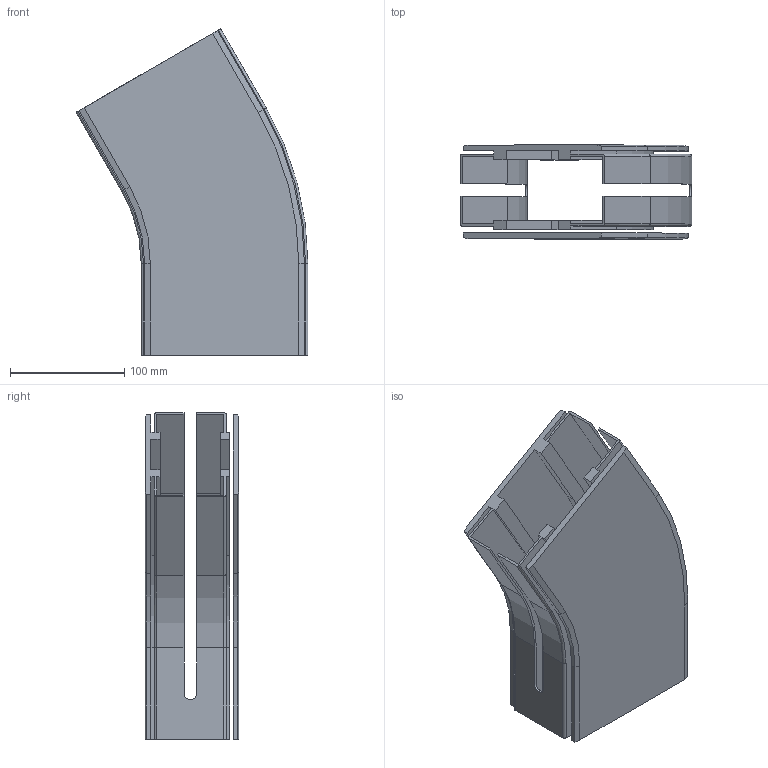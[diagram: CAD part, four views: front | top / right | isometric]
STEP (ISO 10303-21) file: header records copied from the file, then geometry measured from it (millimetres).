
FILE_DESCRIPTION((''),'2;1');
FILE_NAME('C:\Vault Klient\Projekt\Koncept konstruktion\Serie 540 Balk\540-5140.stp','2010-11-24T10:18:13',('Mathias'),(''),'Autodesk Inventor 2011','Autodesk Inventor 2011','');
FILE_SCHEMA(('AUTOMOTIVE_DESIGN { 1 0 10303 214 1 1 1 1 }'));
Length unit declared in the file: millimetre
Products named in the file (1): 540-5140
Bounding box: 203.01 x 82 x 285.78 mm (x, y, z)
Volume: 597285.1 mm3; surface area: 310554.4 mm2
Topology: 2 solids, 2 shells, 159 faces, 434 edges, 284 vertices
Faces by surface type: plane 103, cylinder 32, bspline 14, cone 6, torus 4
Entity records: 5158 total; most frequent: CARTESIAN_POINT 1072, ORIENTED_EDGE 868, DIRECTION 774, EDGE_CURVE 434, VECTOR 330, LINE 330, VERTEX_POINT 284, AXIS2_PLACEMENT_3D 222
